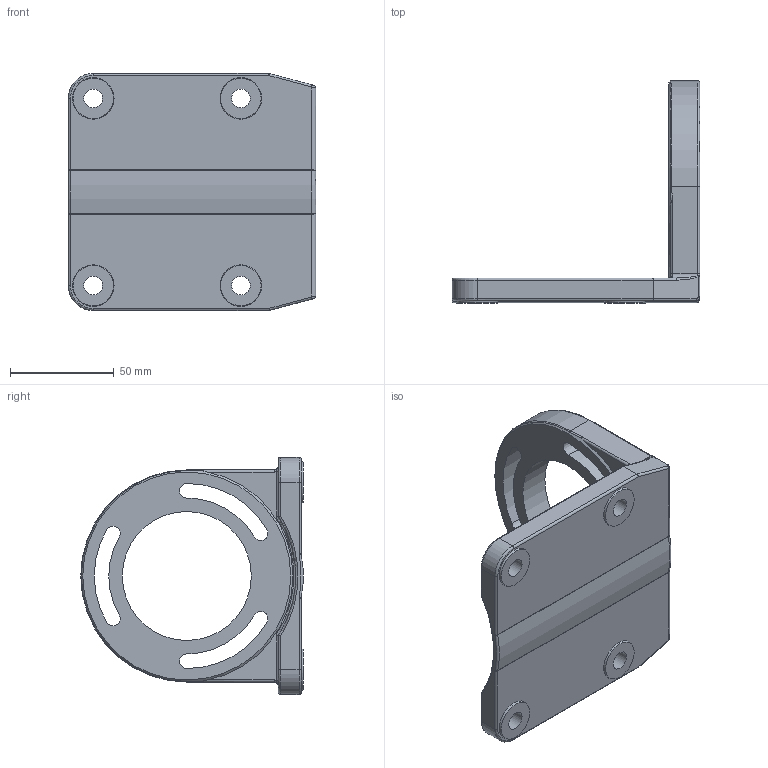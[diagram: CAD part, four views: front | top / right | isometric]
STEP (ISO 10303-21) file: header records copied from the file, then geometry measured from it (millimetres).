
FILE_DESCRIPTION (( 'STEP AP214' ), '1' );
FILE_NAME ('997182 Montagefuss.STEP', '2012-06-20T06:23:40', ( 'Camille Bauer AG' ), ( '' ), 'SwSTEP 2.0', 'SolidWorks 2010', '' );
FILE_SCHEMA (( 'AUTOMOTIVE_DESIGN' ));
Length unit declared in the file: millimetre
Products named in the file (1): 997182 Montagefuss
Bounding box: 119 x 107 x 114 mm (x, y, z)
Volume: 177010.9 mm3; surface area: 51636.9 mm2
Topology: 1 solids, 1 shells, 107 faces, 248 edges, 147 vertices
Faces by surface type: cylinder 40, plane 22, cone 17, torus 16, bspline 10, sphere 2
Full cylindrical faces by diameter (mm): 9 x4, 20 x4, 62 x1
Entity records: 4002 total; most frequent: CARTESIAN_POINT 1623, DIRECTION 510, ORIENTED_EDGE 452, EDGE_CURVE 226, AXIS2_PLACEMENT_3D 218, EDGE_LOOP 145, VERTEX_POINT 143, CIRCLE 120
